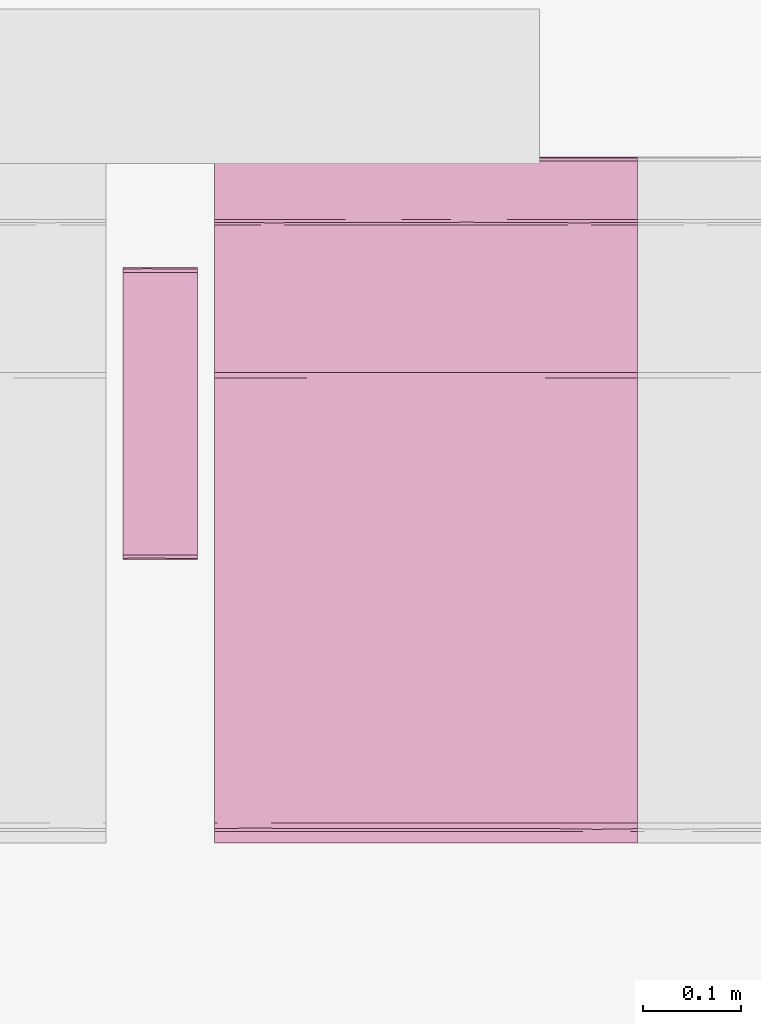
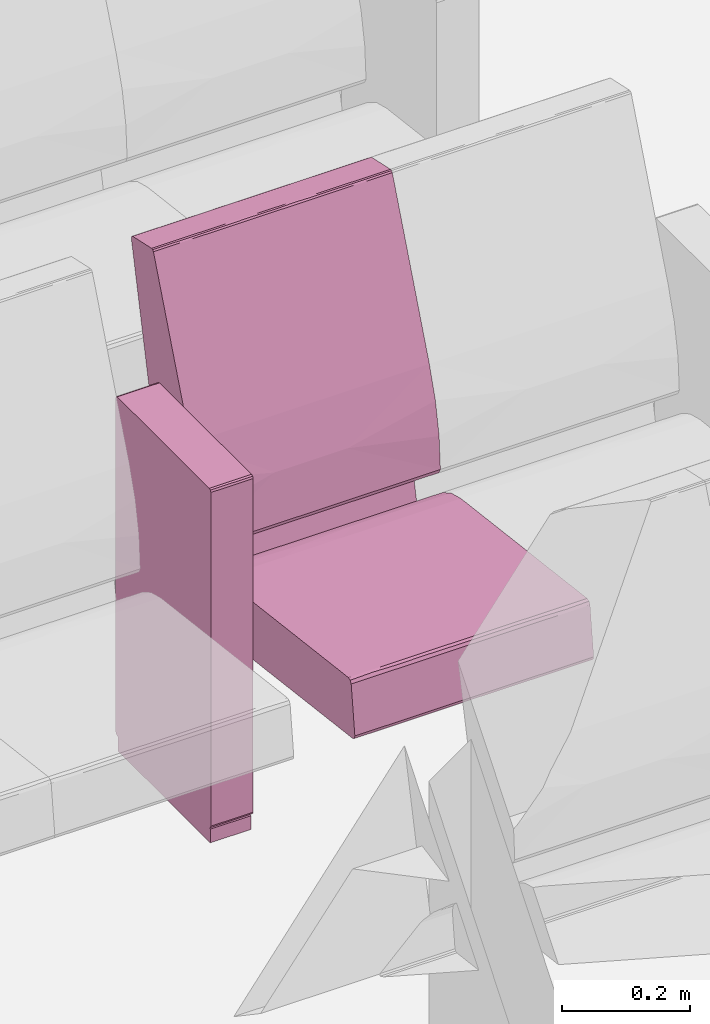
# One storey, part 109 of 155: 1 furnishing.
"""IFC2X3 building model written with IfcOpenShell, lengths in metres."""

from ifc_helpers import new_model, entity, si_unit, converted_unit, derived_unit, direction, frame, origin, place, context, subcontext, project, spatial, faceted_brep, source, transform, mapped, material, material_list, type_object, type_shapes, element, save


model = new_model("IFC2X3")

# Units and contexts
model_context = context("Model", 3, precision=1e-05, world=origin(), true_north=direction((6.12303176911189e-17, 1.0)))
body_context = subcontext(model_context, "Body", "Model", "MODEL_VIEW")
ifc_project = project(units=[si_unit("LENGTHUNIT", "METRE"), si_unit("AREAUNIT", "SQUARE_METRE"), si_unit("VOLUMEUNIT", "CUBIC_METRE"), converted_unit("PLANEANGLEUNIT", "DEGREE", entity("IfcRatioMeasure", 0.0174532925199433), si_unit("PLANEANGLEUNIT", "RADIAN"), dimensions=[0, 0, 0, 0, 0, 0, 0]), si_unit("MASSUNIT", "GRAM", prefix="KILO"), derived_unit("MASSDENSITYUNIT", [(si_unit("MASSUNIT", "GRAM", prefix="KILO"), 1), (si_unit("LENGTHUNIT", "METRE"), -3)]), si_unit("TIMEUNIT", "SECOND"), si_unit("FREQUENCYUNIT", "HERTZ"), si_unit("THERMODYNAMICTEMPERATUREUNIT", "DEGREE_CELSIUS"), derived_unit("THERMALTRANSMITTANCEUNIT", [(si_unit("MASSUNIT", "GRAM", prefix="KILO"), 1), (si_unit("THERMODYNAMICTEMPERATUREUNIT", "KELVIN"), -1), (si_unit("TIMEUNIT", "SECOND"), -3)]), derived_unit("VOLUMETRICFLOWRATEUNIT", [(si_unit("LENGTHUNIT", "METRE"), 3), (si_unit("TIMEUNIT", "SECOND"), -1)]), si_unit("ELECTRICCURRENTUNIT", "AMPERE"), si_unit("ELECTRICVOLTAGEUNIT", "VOLT"), si_unit("POWERUNIT", "WATT"), si_unit("FORCEUNIT", "NEWTON", prefix="KILO"), si_unit("ILLUMINANCEUNIT", "LUX"), si_unit("LUMINOUSFLUXUNIT", "LUMEN"), si_unit("LUMINOUSINTENSITYUNIT", "CANDELA"), derived_unit("USERDEFINED", [(si_unit("MASSUNIT", "GRAM", prefix="KILO"), -1), (si_unit("LENGTHUNIT", "METRE"), -2), (si_unit("TIMEUNIT", "SECOND"), 3), (si_unit("LUMINOUSFLUXUNIT", "LUMEN"), 1)]), derived_unit("LINEARVELOCITYUNIT", [(si_unit("LENGTHUNIT", "METRE"), 1), (si_unit("TIMEUNIT", "SECOND"), -1)]), si_unit("PRESSUREUNIT", "PASCAL"), derived_unit("USERDEFINED", [(si_unit("LENGTHUNIT", "METRE"), -2), (si_unit("MASSUNIT", "GRAM", prefix="KILO"), 1), (si_unit("TIMEUNIT", "SECOND"), -2)])], contexts=[model_context])

# Site, building, storey, space
site_placement = place(None, frame((26.9889013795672, -17.5624287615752, 0.0)))
site = spatial("IfcSite", under=ifc_project, at=site_placement, Name="Default", CompositionType="ELEMENT")
building_placement = place(site_placement, origin())
building = spatial("IfcBuilding", under=site, at=building_placement, Name="C. C. L. Monsenhor Antônio Sampaio", CompositionType="ELEMENT")
storey_placement = place(building_placement, frame((0.0, 0.0, 1.19999999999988)))
storey = spatial("IfcBuildingStorey", under=building, at=storey_placement, Name="Nível 1.2", CompositionType="ELEMENT", Elevation=1.19999999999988)
space_placement = place(storey_placement, origin())
space = spatial("IfcSpace", under=storey, at=space_placement, Name="94", CompositionType="ELEMENT", InteriorOrExteriorSpace="INTERNAL")

# Furnishing
ifc_material_1 = material(Name="V9 - V9 - Ecopelle_672_658")
ifc_material_2 = material(Name="V9 - V9 - RAL_9006_Grigio")
ifc_material_list_1 = material_list([ifc_material_1, ifc_material_2])
ifc_material_list_2 = material_list([ifc_material_1, ifc_material_2])
furniture_type = type_object("IfcFurnitureType", Name="Cadeira auditório", material=ifc_material_list_2)
shared_shape = source(origin(), body_context, "Body", "Brep", [
    faceted_brep([(0.405536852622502, 0.156348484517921, 0.339809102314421), (0.410560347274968, 0.131924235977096, 0.34246450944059), (0.405536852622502, 0.1075, 0.339809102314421), (0.405536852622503, 0.0537499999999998, 0.339809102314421), (0.410597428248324, 0.084060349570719, 0.342506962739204), (0.41079981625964, 0.0179166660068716, 0.342749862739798), (0.405536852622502, 0.215, 0.339809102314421), (0.410248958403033, 0.173608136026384, 0.342130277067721), (0.412515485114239, 0.185674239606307, 0.348529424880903), (0.412515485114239, 0.143333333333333, 0.348529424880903), (0.410560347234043, -0.131924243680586, 0.342464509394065), (0.405536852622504, -0.156348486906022, 0.33980910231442), (0.405536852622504, -0.1075, 0.33980910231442), (0.405536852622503, 0.0, 0.33980910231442), (0.41251548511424, 0.0, 0.348529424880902), (0.411170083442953, -0.0341365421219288, 0.343251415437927), (0.41059742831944, -0.0840603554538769, 0.342506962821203), (0.41251548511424, -0.143333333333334, 0.348529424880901), (0.412515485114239, 0.0358333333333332, 0.348529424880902), (0.412515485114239, 0.0716666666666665, 0.348529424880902), (0.405536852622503, -0.0537500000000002, 0.33980910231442), (0.412515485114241, -0.185674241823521, 0.348529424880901), (0.410799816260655, -0.215, 0.342749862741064), (0.410248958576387, -0.173608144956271, 0.342130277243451), (0.410799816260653, 0.215, 0.342749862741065), (0.412515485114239, 0.215, 0.348529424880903), (0.412515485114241, -0.215, 0.348529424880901), (0.41251548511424, -0.0716666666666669, 0.348529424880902), (0.405536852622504, -0.215, 0.33980910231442), (-0.0557900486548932, -0.215, 0.28268145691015), (-0.055790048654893, -0.168631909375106, 0.282681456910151), (-0.0557900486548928, -0.138065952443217, 0.282681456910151), (-0.0557900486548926, -0.107499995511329, 0.282681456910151), (-0.0557900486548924, -0.0806249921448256, 0.282681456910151), (-0.0557900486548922, -0.0537499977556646, 0.282681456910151), (-0.0557900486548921, -0.0268750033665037, 0.282681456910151), (-0.0557900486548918, 0.0, 0.28268145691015), (-0.0557900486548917, 0.0268749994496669, 0.282681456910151), (-0.0557900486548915, 0.0537499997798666, 0.282681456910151), (-0.0557900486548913, 0.0806250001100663, 0.282681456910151), (-0.0557900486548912, 0.107499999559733, 0.282681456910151), (-0.055790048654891, 0.134374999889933, 0.282681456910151), (-0.0557900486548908, 0.161250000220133, 0.282681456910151), (-0.0557900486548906, 0.1881249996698, 0.282681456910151), (-0.0557900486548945, 0.215, 0.28268145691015), (-0.0594787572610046, -0.0152829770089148, 0.283700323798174), (-0.0613666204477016, 0.0, 0.287029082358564), (-0.0594787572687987, 0.0179017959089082, 0.283700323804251), (-0.0613666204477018, 0.191815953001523, 0.287029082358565), (-0.0613666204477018, 0.215, 0.287029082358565), (-0.0594787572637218, 0.215, 0.283700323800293), (-0.0593340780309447, 0.0671874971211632, 0.283591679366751), (-0.0613666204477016, 0.030565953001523, 0.287029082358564), (-0.0594787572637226, -0.215, 0.283700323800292), (-0.0593337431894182, -0.184174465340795, 0.283591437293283), (-0.0613666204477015, -0.122263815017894, 0.287029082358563), (-0.0613666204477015, -0.0916978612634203, 0.287029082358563), (-0.0613666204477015, -0.0611319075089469, 0.287029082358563), (-0.0593023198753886, -0.0940625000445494, 0.283568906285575), (-0.059382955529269, 0.118123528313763, 0.28362747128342), (-0.0613666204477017, 0.122263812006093, 0.287029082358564), (-0.0597338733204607, 0.147039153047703, 0.283913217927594), (-0.0613666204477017, 0.168631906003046, 0.287029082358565), (-0.0592501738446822, 0.180223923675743, 0.283532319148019), (-0.0588783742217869, 0.0926899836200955, 0.283298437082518), (-0.0613666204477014, -0.215, 0.287029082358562), (-0.0613666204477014, -0.168631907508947, 0.287029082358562), (-0.0592576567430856, -0.123736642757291, 0.283537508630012), (-0.0594787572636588, -0.153348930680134, 0.283700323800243), (-0.0613666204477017, 0.0916978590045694, 0.287029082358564), (-0.0613666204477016, -0.0305659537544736, 0.287029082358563), (-0.059645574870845, -0.045848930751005, 0.283836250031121), (-0.0613666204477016, 0.0611319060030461, 0.287029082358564), (-0.069340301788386, -0.215, 0.351419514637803), (-0.0693403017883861, -0.143333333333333, 0.351419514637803), (-0.0693403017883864, -0.0716666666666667, 0.351419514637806), (-0.0693403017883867, 0.0, 0.351419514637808), (-0.069340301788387, 0.0716666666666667, 0.351419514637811), (-0.0693403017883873, 0.143333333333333, 0.351419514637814), (-0.0693403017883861, 0.215, 0.351419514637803), (-0.0597085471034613, 0.0, 0.37476954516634), (-0.0645543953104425, 0.112272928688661, 0.369803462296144), (-0.0653387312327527, 0.0126787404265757, 0.368680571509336), (-0.0681665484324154, -0.0888707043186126, 0.36292533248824), (-0.0655136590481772, -0.10440004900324, 0.368411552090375), (-0.0694879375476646, 0.0590582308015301, 0.356377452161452), (-0.0695056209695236, -0.125492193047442, 0.356093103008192), (-0.0597085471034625, -0.110316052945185, 0.374769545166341), (-0.0690003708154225, 0.132942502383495, 0.359900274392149), (-0.0672851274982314, 0.108066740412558, 0.365148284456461), (-0.0676206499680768, 0.215, 0.364371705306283), (-0.0686241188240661, 0.215, 0.356813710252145), (-0.0686241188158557, -0.214999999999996, 0.356813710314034), (-0.0686999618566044, 0.0358333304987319, 0.36116674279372), (-0.0694502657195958, -0.0358333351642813, 0.356863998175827), (-0.0676206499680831, -0.214999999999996, 0.364371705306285), (-0.0636645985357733, -0.214999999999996, 0.369570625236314), (-0.0597085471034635, -0.214999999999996, 0.374769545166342), (-0.0597085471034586, 0.215, 0.374769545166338), (-0.0636645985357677, 0.215, 0.36957062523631), (-0.0597085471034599, 0.110316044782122, 0.374769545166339), (-0.0324117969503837, 0.215, 0.390639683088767), (-0.0324117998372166, 0.0436847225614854, 0.39063968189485), (-0.0018793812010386, 0.215, 0.398686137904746), (-0.041847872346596, -0.0856576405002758, 0.386239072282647), (-0.0324117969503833, -0.215, 0.390639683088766), (-0.00187938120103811, -0.215, 0.398686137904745), (-0.00187938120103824, -0.102488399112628, 0.398686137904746), (-0.0219042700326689, -0.0570631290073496, 0.394412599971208), (-0.00187938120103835, 0.0, 0.398686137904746), (0.392202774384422, 0.215, 0.447486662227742), (0.392202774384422, -0.215, 0.447486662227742), (0.392202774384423, -0.156349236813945, 0.447486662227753), (0.392202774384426, -0.107499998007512, 0.447486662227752), (0.392202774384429, -0.0537500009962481, 0.44748666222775), (0.392202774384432, 0.0, 0.447486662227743), (0.392202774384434, 0.0537499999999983, 0.447486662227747), (0.392202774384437, 0.107499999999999, 0.447486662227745), (0.392202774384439, 0.156349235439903, 0.447486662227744), (0.398104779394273, -0.131924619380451, 0.445856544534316), (0.401125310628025, -0.0976984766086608, 0.440530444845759), (0.397860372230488, -0.0827732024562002, 0.446039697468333), (0.401125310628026, -0.215000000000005, 0.440530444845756), (0.401125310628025, -0.156349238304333, 0.440530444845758), (0.397373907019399, -0.173462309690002, 0.446363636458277), (0.398104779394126, -0.215000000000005, 0.445856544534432), (0.397860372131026, 0.0827731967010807, 0.446039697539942), (0.398104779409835, 0.131924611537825, 0.445856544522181), (0.398104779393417, -0.0237489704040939, 0.445856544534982), (0.398104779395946, 0.0268749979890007, 0.445856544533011), (0.401125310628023, 0.0488492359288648, 0.440530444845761), (0.401125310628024, -0.0488492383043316, 0.440530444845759), (0.398774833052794, 0.173462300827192, 0.445271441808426), (0.401125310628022, 0.097698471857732, 0.440530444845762), (0.401125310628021, 0.215, 0.440530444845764), (0.39810477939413, 0.215, 0.445856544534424), (0.401125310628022, 0.156349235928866, 0.440530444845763), (0.401125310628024, 0.0, 0.44053044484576)], [[[0, 1, 2]], [[3, 4, 5]], [[6, 7, 0]], [[7, 8, 9]], [[10, 11, 12]], [[3, 5, 13]], [[14, 15, 5]], [[16, 17, 10]], [[9, 1, 7]], [[18, 5, 4]], [[4, 9, 19, 18]], [[9, 4, 1]], [[2, 1, 4]], [[13, 15, 20]], [[21, 22, 23]], [[5, 18, 14]], [[24, 25, 8]], [[22, 21, 26]], [[24, 7, 6]], [[23, 11, 10]], [[20, 15, 16]], [[3, 2, 4]], [[14, 27, 15]], [[5, 15, 13]], [[27, 17, 16]], [[10, 12, 16]], [[21, 23, 17]], [[20, 16, 12]], [[15, 27, 16]], [[7, 1, 0]], [[28, 11, 23]], [[8, 7, 24]], [[23, 10, 17]], [[28, 23, 22]], [[28, 29, 30, 31, 32, 33, 34, 35, 36, 37, 38, 39, 40, 41, 42, 43, 44, 6, 0, 2, 3, 13, 20, 12, 11]], [[45, 46, 47]], [[48, 49, 50]], [[51, 47, 52]], [[29, 53, 54]], [[55, 56, 57, 58]], [[59, 60, 61]], [[61, 62, 63]], [[51, 64, 39]], [[65, 66, 54]], [[31, 67, 32]], [[45, 47, 38, 37, 36, 35]], [[68, 31, 30]], [[43, 50, 44]], [[63, 42, 61]], [[48, 50, 63]], [[64, 69, 59]], [[68, 54, 66]], [[63, 62, 48]], [[50, 43, 63]], [[67, 55, 58]], [[61, 42, 41]], [[45, 70, 46]], [[55, 68, 66]], [[71, 33, 58]], [[71, 57, 70]], [[41, 40, 59]], [[60, 62, 61]], [[71, 35, 34, 33]], [[35, 71, 45]], [[47, 46, 52]], [[45, 71, 70]], [[58, 57, 71]], [[32, 58, 33]], [[31, 68, 67]], [[54, 68, 30]], [[29, 54, 30]], [[54, 53, 65]], [[55, 67, 68]], [[32, 67, 58]], [[51, 52, 72, 69]], [[43, 42, 63]], [[41, 59, 61]], [[47, 51, 38]], [[40, 39, 64]], [[38, 51, 39]], [[69, 60, 59]], [[69, 64, 51]], [[40, 64, 59]], [[65, 73, 74, 75, 76, 77, 78, 79, 49, 48, 62, 60, 69, 72, 52, 46, 70, 57, 56, 55, 66]], [[80, 81, 82]], [[82, 83, 84]], [[78, 77, 76, 85]], [[86, 75, 74]], [[84, 80, 82]], [[80, 84, 87]], [[88, 89, 90]], [[91, 79, 78]], [[74, 73, 92]], [[85, 88, 91]], [[81, 89, 82]], [[93, 94, 83]], [[94, 86, 83]], [[85, 76, 94]], [[92, 86, 74]], [[85, 94, 93]], [[83, 92, 95]], [[75, 94, 76]], [[93, 83, 82]], [[95, 96, 84]], [[88, 85, 93]], [[96, 97, 87]], [[98, 99, 100]], [[78, 85, 91]], [[89, 88, 93]], [[90, 91, 88]], [[93, 82, 89]], [[81, 99, 89]], [[99, 90, 89]], [[100, 81, 80]], [[100, 99, 81]], [[83, 86, 92]], [[75, 86, 94]], [[95, 84, 83]], [[87, 84, 96]], [[101, 102, 103]], [[104, 80, 87, 97]], [[105, 106, 107]], [[107, 108, 105]], [[103, 102, 109]], [[104, 102, 80]], [[104, 108, 102]], [[98, 102, 101]], [[105, 104, 97]], [[105, 108, 104]], [[102, 98, 100, 80]], [[109, 108, 107]], [[109, 102, 108]], [[110, 103, 109, 107, 106, 111, 112, 113, 114, 115, 116, 117, 118]], [[119, 120, 121]], [[122, 123, 124]], [[111, 125, 124]], [[117, 116, 126]], [[124, 119, 112]], [[113, 112, 119]], [[127, 118, 117]], [[115, 114, 128, 129, 116]], [[129, 130, 126]], [[121, 131, 128]], [[127, 132, 118]], [[110, 118, 132]], [[127, 126, 133]], [[119, 124, 123]], [[134, 135, 132]], [[136, 132, 127]], [[120, 119, 123]], [[133, 136, 127]], [[137, 130, 129, 128, 131]], [[126, 127, 117]], [[130, 133, 126]], [[113, 119, 121]], [[129, 126, 116]], [[128, 114, 121]], [[114, 113, 121]], [[131, 121, 120]], [[111, 124, 112]], [[124, 125, 122]], [[134, 132, 136]], [[132, 135, 110]], [[19, 9, 8, 25, 134, 136, 133, 130, 137, 131, 120, 123, 122, 26, 21, 17, 27, 14, 18]], [[65, 53, 29, 28, 22, 26, 122, 125, 111, 106, 105, 97, 96, 95, 92, 73]], [[98, 101, 103, 110, 135, 134, 25, 24, 6, 44, 50, 49, 79, 91, 90, 99]]]),
    faceted_brep([(0.123144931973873, -0.283972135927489, 0.673627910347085), (0.12334838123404, -0.259944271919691, 0.6734355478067), (0.119812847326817, -0.27, 0.674900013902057), (0.124812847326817, -0.27, 0.669900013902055), (0.12334838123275, -0.232, 0.673435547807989), (0.119812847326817, -0.232, 0.674900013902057), (0.124812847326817, -0.308, 0.669900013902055), (0.119812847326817, -0.308, 0.674900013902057), (0.124812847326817, -0.249888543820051, 0.669900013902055), (0.124812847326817, -0.232, 0.669900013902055), (0.12334838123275, -0.308, 0.673435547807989), (0.124812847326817, -0.27, 0.035), (0.124812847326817, -0.232, 0.035), (0.124812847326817, -0.308, 0.0350000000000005), (0.123540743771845, -0.283972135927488, 0.0316679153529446), (0.12334838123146, -0.25994427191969, 0.0314644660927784), (0.119812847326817, -0.27, 0.0300000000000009), (0.12334838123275, -0.232, 0.0314644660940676), (0.119812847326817, -0.308, 0.0300000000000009), (0.119812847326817, -0.249888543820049, 0.030000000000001), (0.119812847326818, -0.232, 0.030000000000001), (0.123348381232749, -0.308, 0.0314644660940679), (-0.167179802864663, -0.308, 0.0300000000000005), (-0.167179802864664, -0.27, 0.0300000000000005), (-0.167179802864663, -0.232, 0.0300000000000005), (-0.17051188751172, -0.283972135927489, 0.0312721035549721), (-0.170715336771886, -0.25994427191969, 0.0314644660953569), (-0.172179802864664, -0.27, 0.0350000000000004), (-0.170715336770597, -0.232, 0.0314644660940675), (-0.172179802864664, -0.308, 0.0350000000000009), (-0.172179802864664, -0.24988854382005, 0.0350000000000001), (-0.172179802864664, -0.232, 0.0349999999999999), (-0.170715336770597, -0.308, 0.0314644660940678), (-0.172179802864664, -0.308, 0.669900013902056), (-0.172179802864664, -0.27, 0.669900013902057), (-0.172179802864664, -0.232, 0.669900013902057), (-0.170907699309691, -0.283972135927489, 0.673232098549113), (-0.170715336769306, -0.259944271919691, 0.673435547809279), (-0.167179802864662, -0.27, 0.674900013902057), (-0.170715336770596, -0.232, 0.67343554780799), (-0.167179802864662, -0.308, 0.674900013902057), (-0.167179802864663, -0.249888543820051, 0.674900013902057), (-0.167179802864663, -0.232, 0.674900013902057), (-0.170715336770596, -0.308, 0.67343554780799)], [[[0, 1, 2]], [[1, 0, 3]], [[1, 4, 5, 2]], [[6, 3, 0]], [[7, 0, 2]], [[4, 1, 3, 8, 9]], [[10, 0, 7]], [[0, 10, 6]], [[11, 12, 9, 8, 3, 6, 13]], [[14, 15, 11]], [[15, 14, 16]], [[15, 17, 12, 11]], [[18, 16, 14]], [[13, 14, 11]], [[17, 15, 16, 19, 20]], [[21, 14, 13]], [[14, 21, 18]], [[18, 22, 23, 24, 20, 19, 16]], [[25, 26, 23]], [[26, 25, 27]], [[26, 28, 24, 23]], [[29, 27, 25]], [[22, 25, 23]], [[28, 26, 27, 30, 31]], [[32, 25, 22]], [[25, 32, 29]], [[27, 29, 33, 34, 35, 31, 30]], [[36, 37, 34]], [[37, 36, 38]], [[37, 39, 35, 34]], [[40, 38, 36]], [[33, 36, 34]], [[39, 37, 38, 41, 42]], [[43, 36, 33]], [[36, 43, 40]], [[40, 7, 2, 5, 42, 41, 38]], [[35, 39, 42, 5, 4, 9, 12, 17, 20, 24, 28, 31]], [[29, 32, 22, 18, 21, 13, 6, 10, 7, 40, 43, 33]]]),
    faceted_brep([(-0.0695672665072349, 0.215, 0.476508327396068), (-0.074405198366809, 0.0524423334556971, 0.506888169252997), (-0.0655618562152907, 0.215, 0.415143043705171), (-0.0744051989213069, -0.0780075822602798, 0.506888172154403), (-0.0655618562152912, 0.0, 0.415143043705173), (-0.0655618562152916, -0.215, 0.415143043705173), (-0.0655618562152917, -0.1075, 0.415143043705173), (-0.0655618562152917, 0.1075, 0.415143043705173), (-0.0695672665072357, -0.215, 0.476508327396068), (-0.081111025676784, -0.215, 0.536911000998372), (-0.0811110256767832, 0.215, 0.536911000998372), (-0.100016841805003, 0.215, 0.595428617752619), (-0.100016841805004, 0.0, 0.595428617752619), (-0.100016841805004, -0.215, 0.595428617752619), (-0.0698317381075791, 0.0358333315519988, 0.406528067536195), (-0.0792851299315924, 0.0, 0.404772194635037), (-0.0792851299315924, 0.0716666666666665, 0.404772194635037), (-0.0792851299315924, -0.215, 0.404772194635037), (-0.0792851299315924, -0.143333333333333, 0.404772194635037), (-0.0698317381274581, -0.215, 0.406528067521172), (-0.0792851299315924, 0.143333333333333, 0.404772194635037), (-0.0792851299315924, 0.215, 0.404772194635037), (-0.0698317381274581, 0.215, 0.406528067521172), (-0.0694171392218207, 0.140338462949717, 0.406857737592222), (-0.0708115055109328, -0.0356393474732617, 0.405868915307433), (-0.0703502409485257, -0.107500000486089, 0.406159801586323), (-0.0792851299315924, -0.0716666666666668, 0.404772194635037), (-0.163837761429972, -0.215, 0.420611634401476), (-0.163837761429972, 0.215, 0.420611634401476), (-0.123612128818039, 0.215, 0.235917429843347), (-0.123612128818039, -0.215, 0.235917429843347), (-0.142059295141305, -0.215, 0.231899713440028), (-0.142059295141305, 0.215, 0.231899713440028), (-0.235388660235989, -0.215, 0.652619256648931), (-0.235388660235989, 0.215, 0.652619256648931), (-0.28428001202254, -0.215, 0.873004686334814), (-0.284280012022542, -0.191295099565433, 0.873004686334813), (-0.284280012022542, -0.161249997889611, 0.873004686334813), (-0.284280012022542, -0.134374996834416, 0.873004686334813), (-0.284280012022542, -0.107499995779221, 0.873004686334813), (-0.284280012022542, -0.0806249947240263, 0.873004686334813), (-0.284280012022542, -0.0537499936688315, 0.873004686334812), (-0.284280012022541, -0.0268749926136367, 0.873004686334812), (-0.28428001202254, 0.0, 0.873004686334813), (-0.284280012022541, 0.0268749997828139, 0.873004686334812), (-0.284280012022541, 0.0537500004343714, 0.873004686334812), (-0.284280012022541, 0.0806250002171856, 0.873004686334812), (-0.284280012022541, 0.1075, 0.873004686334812), (-0.284280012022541, 0.134374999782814, 0.873004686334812), (-0.28428001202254, 0.161249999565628, 0.873004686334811), (-0.28428001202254, 0.191295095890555, 0.873004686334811), (-0.28428001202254, 0.215, 0.873004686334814), (-0.283746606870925, 0.0872244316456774, 0.876674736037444), (-0.283504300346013, 0.0569644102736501, 0.877068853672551), (-0.283567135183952, -0.15546176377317, 0.876973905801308), (-0.283641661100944, -0.12093750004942, 0.87685511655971), (-0.283567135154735, 0.155461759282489, 0.876973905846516), (-0.28330409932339, 0.185293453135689, 0.877344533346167), (-0.283641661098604, 0.0179166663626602, 0.876855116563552), (-0.283641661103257, -0.0136463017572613, 0.876855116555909), (-0.280514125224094, -0.0358333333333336, 0.879190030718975), (-0.280514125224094, 0.0, 0.879190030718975), (-0.280514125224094, 0.0358333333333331, 0.879190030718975), (-0.280514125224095, -0.143333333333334, 0.879190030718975), (-0.280514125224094, -0.1075, 0.879190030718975), (-0.280514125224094, -0.071666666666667, 0.879190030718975), (-0.283746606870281, -0.0872244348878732, 0.876674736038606), (-0.280514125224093, 0.0716666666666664, 0.879190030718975), (-0.280514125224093, 0.1075, 0.879190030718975), (-0.283641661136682, 0.120937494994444, 0.876855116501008), (-0.280514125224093, 0.143333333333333, 0.879190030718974), (-0.283641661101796, 0.215, 0.876855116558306), (-0.283641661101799, -0.215, 0.876855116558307), (-0.283304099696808, -0.18529345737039, 0.877344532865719), (-0.280514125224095, -0.167590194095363, 0.879190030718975), (-0.280514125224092, 0.215, 0.879190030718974), (-0.280514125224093, 0.167590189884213, 0.879190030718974), (-0.280514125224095, -0.215, 0.879190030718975), (-0.283504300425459, -0.0569644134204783, 0.8770688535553), (-0.22111253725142, 0.215, 0.892176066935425), (-0.22111253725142, -0.215, 0.892176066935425), (-0.221112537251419, -0.191815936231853, 0.892176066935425), (-0.221112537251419, -0.161250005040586, 0.892176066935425), (-0.221112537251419, -0.134375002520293, 0.892176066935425), (-0.221112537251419, -0.1075, 0.892176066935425), (-0.221112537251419, -0.080624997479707, 0.892176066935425), (-0.221112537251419, -0.0537499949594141, 0.892176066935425), (-0.221112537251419, -0.0268750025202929, 0.892176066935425), (-0.221112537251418, 0.0, 0.892176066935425), (-0.221112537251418, 0.0268750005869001, 0.892176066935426), (-0.221112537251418, 0.05375000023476, 0.892176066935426), (-0.221112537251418, 0.0806249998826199, 0.892176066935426), (-0.221112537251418, 0.10749999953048, 0.892176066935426), (-0.221112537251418, 0.13437499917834, 0.892176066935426), (-0.221112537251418, 0.16124999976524, 0.892176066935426), (-0.221112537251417, 0.19181594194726, 0.892176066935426), (-0.215419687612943, 0.0, 0.889191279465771), (-0.215419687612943, 0.0358333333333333, 0.889191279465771), (-0.217722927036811, 0.0162353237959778, 0.891719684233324), (-0.217722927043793, -0.0134375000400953, 0.891719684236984), (-0.215419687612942, -0.191815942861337, 0.889191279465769), (-0.215419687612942, -0.168631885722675, 0.889191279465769), (-0.217722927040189, -0.182482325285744, 0.891719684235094), (-0.217722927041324, -0.215, 0.891719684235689), (-0.215419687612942, -0.215, 0.889191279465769), (-0.215419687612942, -0.1075, 0.88919127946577), (-0.215419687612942, -0.0716666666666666, 0.88919127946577), (-0.217722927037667, -0.0912646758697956, 0.891719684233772), (-0.217722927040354, -0.120937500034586, 0.89171968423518), (-0.215419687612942, -0.143333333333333, 0.88919127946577), (-0.215419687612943, 0.191815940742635, 0.889191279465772), (-0.215419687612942, 0.215, 0.889191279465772), (-0.217722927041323, 0.215, 0.89171968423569), (-0.217722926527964, 0.190103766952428, 0.891719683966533), (-0.217722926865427, 0.0912646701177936, 0.891719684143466), (-0.217816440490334, 0.0647800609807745, 0.891767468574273), (-0.215419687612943, 0.0716666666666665, 0.889191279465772), (-0.217816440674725, -0.0647800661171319, 0.891767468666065), (-0.2179983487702, -0.0390825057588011, 0.891853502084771), (-0.217558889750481, -0.155982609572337, 0.891629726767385), (-0.217722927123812, 0.120937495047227, 0.891719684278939), (-0.215419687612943, 0.16863188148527, 0.889191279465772), (-0.215419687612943, 0.143333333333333, 0.889191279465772), (-0.217558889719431, 0.15598260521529, 0.891629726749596), (-0.215419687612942, -0.0358333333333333, 0.889191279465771), (-0.215419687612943, 0.1075, 0.889191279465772), (-0.218257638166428, 0.0404491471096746, 0.891961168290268)], [[[0, 1, 2]], [[1, 3, 4]], [[3, 5, 6, 4]], [[1, 4, 7, 2]], [[5, 3, 8]], [[8, 3, 9]], [[0, 10, 1]], [[11, 12, 1]], [[3, 13, 9]], [[3, 12, 13]], [[11, 1, 10]], [[3, 1, 12]], [[14, 15, 16]], [[17, 18, 19]], [[20, 21, 22]], [[2, 23, 22]], [[14, 7, 4]], [[14, 24, 15]], [[6, 25, 24]], [[22, 23, 20]], [[14, 23, 7]], [[19, 6, 5]], [[4, 24, 14]], [[16, 23, 14]], [[16, 20, 23]], [[26, 25, 18]], [[25, 19, 18]], [[15, 24, 26]], [[23, 2, 7]], [[19, 25, 6]], [[26, 24, 25]], [[6, 24, 4]], [[15, 26, 18, 17, 27, 28, 21, 20, 16]], [[29, 28, 27, 30]], [[30, 31, 32, 29]], [[32, 31, 33, 34]], [[34, 33, 35, 36, 37, 38, 39, 40, 41, 42, 43, 44, 45, 46, 47, 48, 49, 50, 51]], [[52, 46, 53]], [[38, 54, 55]], [[56, 57, 49]], [[58, 59, 60, 61, 62]], [[63, 64, 55]], [[64, 65, 66]], [[52, 67, 68]], [[69, 70, 56]], [[49, 57, 50]], [[38, 55, 39]], [[71, 51, 50]], [[36, 35, 72]], [[59, 58, 44, 43, 42]], [[73, 74, 54]], [[55, 66, 39]], [[75, 57, 76]], [[77, 74, 73]], [[69, 52, 68]], [[37, 36, 73]], [[54, 74, 63]], [[56, 76, 57]], [[36, 72, 73]], [[75, 71, 57]], [[70, 76, 56]], [[52, 69, 47]], [[48, 47, 69]], [[42, 78, 59]], [[66, 55, 64]], [[50, 57, 71]], [[73, 54, 37]], [[77, 73, 72]], [[48, 69, 56]], [[56, 49, 48]], [[69, 68, 70]], [[53, 46, 45, 44]], [[58, 62, 53]], [[53, 44, 58]], [[38, 37, 54]], [[63, 55, 54]], [[78, 66, 65]], [[78, 40, 66]], [[67, 52, 53]], [[78, 42, 41, 40]], [[65, 60, 78]], [[59, 78, 60]], [[52, 47, 46]], [[40, 39, 66]], [[62, 67, 53]], [[79, 75, 76, 70, 68, 67, 62, 61, 60, 65, 64, 63, 74, 77, 80, 81, 82, 83, 84, 85, 86, 87, 88, 89, 90, 91, 92, 93, 94, 95]], [[96, 97, 98, 99]], [[100, 101, 102, 103, 104]], [[105, 106, 107, 108, 109]], [[110, 111, 112]], [[113, 112, 95]], [[114, 115, 116]], [[117, 118, 86]], [[82, 119, 83]], [[102, 82, 81, 80, 103]], [[112, 79, 95]], [[108, 107, 85, 84, 83]], [[88, 87, 99, 98, 89]], [[119, 101, 109]], [[93, 92, 120]], [[117, 85, 107]], [[113, 121, 110]], [[122, 121, 123]], [[113, 94, 123]], [[124, 99, 118]], [[122, 123, 120]], [[108, 119, 109]], [[113, 110, 112]], [[102, 101, 119]], [[119, 108, 83]], [[114, 125, 120]], [[123, 94, 93]], [[93, 120, 123]], [[114, 120, 92]], [[122, 120, 125]], [[117, 107, 106]], [[114, 92, 91]], [[116, 125, 114]], [[115, 91, 90]], [[85, 117, 86]], [[126, 89, 98]], [[117, 106, 124]], [[118, 99, 87]], [[124, 96, 99]], [[97, 116, 115]], [[97, 115, 126]], [[86, 118, 87]], [[124, 118, 117]], [[91, 115, 114]], [[115, 90, 126]], [[89, 126, 90]], [[97, 126, 98]], [[82, 102, 119]], [[94, 113, 95]], [[121, 113, 123]], [[11, 111, 110, 121, 122, 125, 116, 97, 96, 124, 106, 105, 109, 101, 100, 104, 13, 12]], [[27, 17, 19, 5, 8, 9, 13, 104, 103, 80, 77, 72, 35, 33, 31, 30]], [[51, 71, 75, 79, 112, 111, 11, 10, 0, 2, 22, 21, 28, 29, 32, 34]]]),
    faceted_brep([(0.120312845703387, -0.2335, 0.0), (0.120312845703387, -0.2335, 0.0260000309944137), (0.120312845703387, -0.249500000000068, 0.0260000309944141), (0.120312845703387, -0.27, 0.0260000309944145), (0.120312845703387, -0.3065, 0.0260000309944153), (0.120312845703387, -0.3065, 0.0), (-0.167687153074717, -0.3065, 0.0), (-0.167687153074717, -0.2335, 0.0), (-0.167687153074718, -0.27, 0.0260000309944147), (-0.167687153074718, -0.2335, 0.0260000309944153), (-0.167687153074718, -0.3065, 0.0260000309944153), (-0.166521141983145, -0.233500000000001, 0.0288228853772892), (-0.166521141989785, -0.257382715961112, 0.0288228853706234), (-0.163702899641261, -0.233500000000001, 0.0300000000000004), (-0.163702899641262, -0.3065, 0.0300000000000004), (-0.16652114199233, -0.279986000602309, 0.0288228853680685), (-0.166521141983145, -0.3065, 0.0288228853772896), (-0.163702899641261, -0.27, 0.0300000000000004), (0.116297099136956, -0.3065, 0.0300000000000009), (0.116297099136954, -0.269999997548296, 0.0300000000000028), (0.116297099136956, -0.2335, 0.0300000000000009), (0.119033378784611, -0.283124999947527, 0.0289323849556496), (0.1191357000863, -0.2335, 0.0288340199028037), (0.119135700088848, -0.259750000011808, 0.0288340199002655), (0.119135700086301, -0.3065, 0.0288340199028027)], [[[0, 1, 2, 3, 4, 5]], [[0, 5, 6, 7]], [[8, 9, 7, 6, 10]], [[11, 12, 13]], [[14, 15, 16]], [[15, 14, 17, 13, 12]], [[9, 8, 12, 11]], [[16, 15, 10]], [[8, 10, 15, 12]], [[14, 18, 19, 20, 13, 17]], [[21, 4, 3]], [[22, 20, 19, 23]], [[3, 2, 1, 22, 23]], [[24, 21, 18]], [[21, 3, 23]], [[18, 21, 19]], [[21, 24, 4]], [[21, 23, 19]], [[6, 5, 4, 24, 18, 14, 16, 10]], [[7, 9, 11, 13, 20, 22, 1, 0]]]),
])
type_shapes(furniture_type, [shared_shape])
furnishing_placement = place(space_placement, frame((-11.4859492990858, -13.3554126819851, 0.0), z_axis=(0.0, 0.0, 1.0), x_axis=(0.0, -1.0, 0.0)))
element("IfcFurnishingElement", 1, at=furnishing_placement, inside=space, type_object=furniture_type, material=ifc_material_list_1, Name="cadeira auditório pcd:Cadeira auditório", ObjectType="Cadeira auditório", context=body_context, shape_type="MappedRepresentation", body=[
    mapped(shared_shape, transform((0.0, 0.0, 0.0), scale=1.0)),
])

save(model, "model.ifc")
